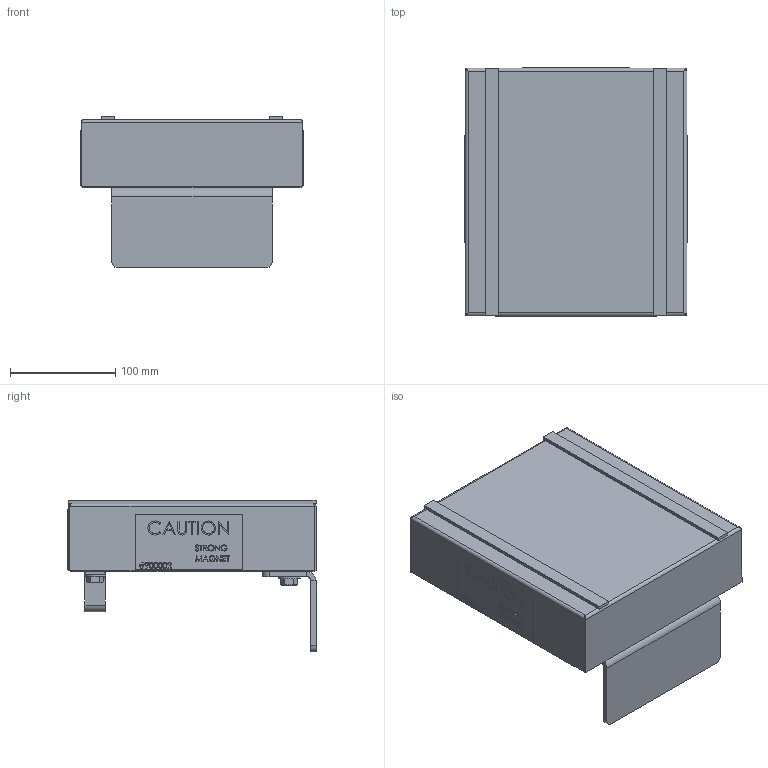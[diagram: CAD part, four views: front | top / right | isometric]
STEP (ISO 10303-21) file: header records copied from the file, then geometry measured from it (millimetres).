
FILE_DESCRIPTION (( 'STEP AP203' ), '1' );
FILE_NAME ('TKF09.STEP', '2017-12-19T20:48:54', ( 'admin' ), ( '' ), 'SwSTEP 2.0', 'SolidWorks 2015', '' );
FILE_SCHEMA (( 'CONFIG_CONTROL_DESIGN' ));
Products named in the file (1): TKF09
Bounding box: 210.82 x 235.2 x 144.15 mm (x, y, z)
Volume: 2037720.3 mm3; surface area: 557577.4 mm2
Topology: 21 solids, 21 shells, 2358 faces, 5966 edges, 3868 vertices
Faces by surface type: plane 1319, bspline 675, cylinder 180, cone 176, torus 8
Entity records: 111409 total; most frequent: CARTESIAN_POINT 59090, ORIENTED_EDGE 11932, DIRECTION 8340, EDGE_CURVE 5966, LINE 4044, VECTOR 4044, VERTEX_POINT 3868, EDGE_LOOP 2608
